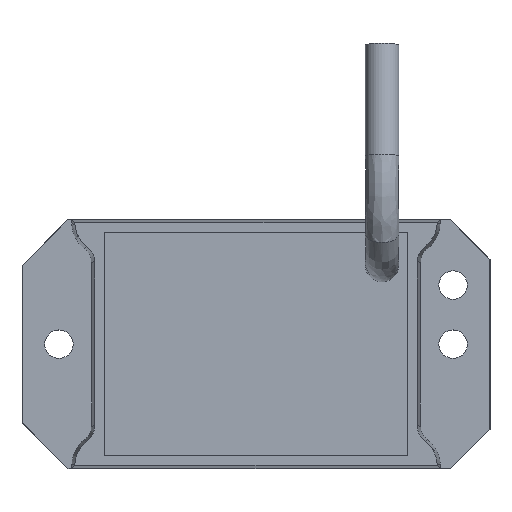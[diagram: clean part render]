
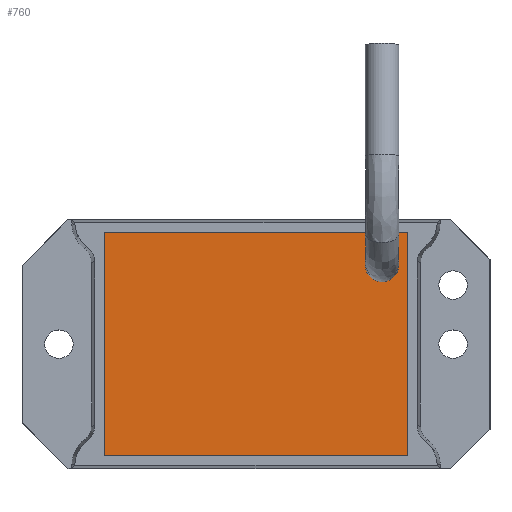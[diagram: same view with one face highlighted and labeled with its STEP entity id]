
A CAD part, top view. The second image highlights one B-rep face of the part: STEP entity #760.
In plain terms, the highlighted planar face has unit normal (0, 0, 1).
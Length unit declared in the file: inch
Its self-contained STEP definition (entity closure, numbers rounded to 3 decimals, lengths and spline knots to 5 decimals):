
#29=FACE_BOUND('',#149,.T.);
#40=CIRCLE('',#809,0.1063);
#62=PLANE('',#808);
#99=FACE_OUTER_BOUND('',#148,.T.);
#148=EDGE_LOOP('',(#675,#676,#677,#678));
#149=EDGE_LOOP('',(#679));
#288=B_SPLINE_CURVE_WITH_KNOTS('',3,(#991,#992,#993,#994,#995,#996),
 .UNSPECIFIED.,.F.,.F.,(4,2,4),(-3.59103,-1.79552,0.),
 .UNSPECIFIED.);
#289=B_SPLINE_CURVE_WITH_KNOTS('',3,(#1019,#1020,#1021,#1022,#1023,#1024),
 .UNSPECIFIED.,.F.,.F.,(4,2,4),(-4.8864,-2.4432,0.),
 .UNSPECIFIED.);
#290=B_SPLINE_CURVE_WITH_KNOTS('',3,(#1045,#1046,#1047,#1048,#1049,#1050),
 .UNSPECIFIED.,.F.,.F.,(4,2,4),(-3.59099,-1.79549,0.),
 .UNSPECIFIED.);
#291=B_SPLINE_CURVE_WITH_KNOTS('',3,(#1070,#1071,#1072,#1073,#1074,#1075),
 .UNSPECIFIED.,.F.,.F.,(4,2,4),(-4.88637,-2.44319,0.),
 .UNSPECIFIED.);
#311=VERTEX_POINT('',#989);
#312=VERTEX_POINT('',#990);
#315=VERTEX_POINT('',#1018);
#317=VERTEX_POINT('',#1044);
#373=VERTEX_POINT('',#1841);
#381=EDGE_CURVE('',#311,#312,#288,.F.);
#385=EDGE_CURVE('',#312,#315,#289,.F.);
#388=EDGE_CURVE('',#315,#317,#290,.F.);
#391=EDGE_CURVE('',#317,#311,#291,.F.);
#476=EDGE_CURVE('',#373,#373,#40,.T.);
#675=ORIENTED_EDGE('',*,*,#381,.F.);
#676=ORIENTED_EDGE('',*,*,#391,.F.);
#677=ORIENTED_EDGE('',*,*,#388,.F.);
#678=ORIENTED_EDGE('',*,*,#385,.F.);
#679=ORIENTED_EDGE('',*,*,#476,.T.);
#760=ADVANCED_FACE('',(#99,#29),#62,.T.);
#808=AXIS2_PLACEMENT_3D('',#1840,#943,#944);
#809=AXIS2_PLACEMENT_3D('',#1842,#945,#946);
#943=DIRECTION('center_axis',(0.,0.,1.));
#944=DIRECTION('ref_axis',(-1.,0.,0.));
#945=DIRECTION('center_axis',(0.,0.,
-1.));
#946=DIRECTION('ref_axis',(0.,1.,0.));
#989=CARTESIAN_POINT('',(0.96188,0.70691,1.09));
#990=CARTESIAN_POINT('',(0.96188,-0.70688,1.09));
#991=CARTESIAN_POINT('Ctrl Pts',(0.96188,-0.70688,1.09));
#992=CARTESIAN_POINT('Ctrl Pts',(0.96188,-0.47125,1.09));
#993=CARTESIAN_POINT('Ctrl Pts',(0.96188,-0.23562,1.09));
#994=CARTESIAN_POINT('Ctrl Pts',(0.96188,0.23565,1.09));
#995=CARTESIAN_POINT('Ctrl Pts',(0.96188,0.47128,1.09));
#996=CARTESIAN_POINT('Ctrl Pts',(0.96188,0.70691,1.09));
#1018=CARTESIAN_POINT('',(-0.96189,-0.70689,1.09));
#1019=CARTESIAN_POINT('Ctrl Pts',(-0.96189,-0.70689,
1.09));
#1020=CARTESIAN_POINT('Ctrl Pts',(-0.64127,-0.70689,
1.09));
#1021=CARTESIAN_POINT('Ctrl Pts',(-0.32064,-0.70689,
1.09));
#1022=CARTESIAN_POINT('Ctrl Pts',(0.32062,-0.70689,
1.09));
#1023=CARTESIAN_POINT('Ctrl Pts',(0.64125,-0.70688,
1.09));
#1024=CARTESIAN_POINT('Ctrl Pts',(0.96188,-0.70688,
1.09));
#1044=CARTESIAN_POINT('',(-0.96189,0.70688,1.09));
#1045=CARTESIAN_POINT('Ctrl Pts',(-0.96189,0.70688,
1.09));
#1046=CARTESIAN_POINT('Ctrl Pts',(-0.96189,0.47125,1.09));
#1047=CARTESIAN_POINT('Ctrl Pts',(-0.96189,0.23562,
1.09));
#1048=CARTESIAN_POINT('Ctrl Pts',(-0.96189,-0.23564,
1.09));
#1049=CARTESIAN_POINT('Ctrl Pts',(-0.96189,-0.47126,
1.09));
#1050=CARTESIAN_POINT('Ctrl Pts',(-0.96189,-0.70689,
1.09));
#1070=CARTESIAN_POINT('Ctrl Pts',(0.96188,0.70691,1.09));
#1071=CARTESIAN_POINT('Ctrl Pts',(0.64125,0.70691,1.09));
#1072=CARTESIAN_POINT('Ctrl Pts',(0.32063,0.7069,1.09));
#1073=CARTESIAN_POINT('Ctrl Pts',(-0.32063,0.70689,
1.09));
#1074=CARTESIAN_POINT('Ctrl Pts',(-0.64126,0.70689,
1.09));
#1075=CARTESIAN_POINT('Ctrl Pts',(-0.96189,0.70688,
1.09));
#1840=CARTESIAN_POINT('Origin',(-0.00001,0.00001,
1.09));
#1841=CARTESIAN_POINT('',(0.79999,0.60631,1.09));
#1842=CARTESIAN_POINT('Origin',(0.79999,0.50001,1.09));
